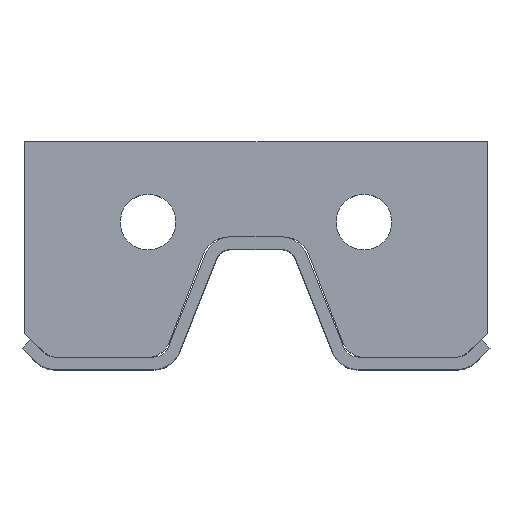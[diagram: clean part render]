
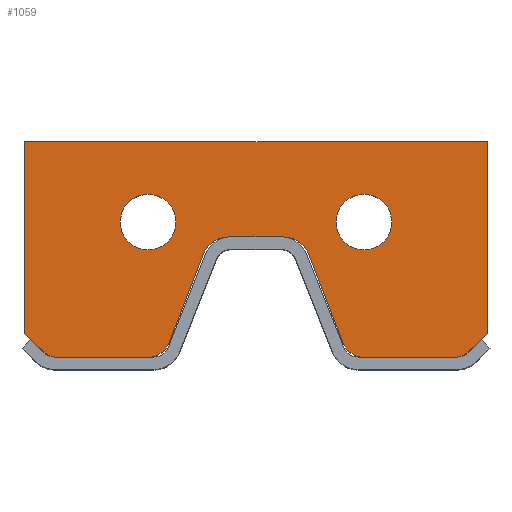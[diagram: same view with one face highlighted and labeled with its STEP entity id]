
A CAD part, top view. The second image highlights one B-rep face of the part: STEP entity #1059.
In plain terms, the highlighted planar face has unit normal (0, 0, 1).
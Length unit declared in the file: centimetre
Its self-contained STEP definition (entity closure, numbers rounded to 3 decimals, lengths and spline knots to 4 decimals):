
#28=FACE_BOUND('',#178,.T.);
#29=FACE_BOUND('',#179,.T.);
#59=PLANE('',#1164);
#113=FACE_OUTER_BOUND('',#177,.T.);
#177=EDGE_LOOP('',(#964,#965,#966,#967,#968,#969,#970,#971,#972,#973,#974,
#975,#976,#977,#978,#979));
#178=EDGE_LOOP('',(#980));
#179=EDGE_LOOP('',(#981));
#220=CIRCLE('',#1139,0.9);
#221=CIRCLE('',#1141,0.9);
#222=CIRCLE('',#1146,0.8);
#223=CIRCLE('',#1149,0.8);
#224=CIRCLE('',#1152,0.8);
#225=CIRCLE('',#1155,0.8);
#226=CIRCLE('',#1158,0.8);
#227=CIRCLE('',#1161,0.8);
#305=LINE('',#1717,#407);
#307=LINE('',#1721,#409);
#309=LINE('',#1725,#411);
#312=LINE('',#1733,#414);
#315=LINE('',#1741,#417);
#318=LINE('',#1749,#420);
#321=LINE('',#1757,#423);
#324=LINE('',#1765,#426);
#327=LINE('',#1773,#429);
#329=LINE('',#1776,#431);
#407=VECTOR('',#1404,0.1);
#409=VECTOR('',#1408,0.1);
#411=VECTOR('',#1412,0.1);
#414=VECTOR('',#1421,0.1);
#417=VECTOR('',#1430,0.1);
#420=VECTOR('',#1439,0.1);
#423=VECTOR('',#1448,0.1);
#426=VECTOR('',#1457,0.1);
#429=VECTOR('',#1466,0.1);
#431=VECTOR('',#1470,0.1);
#514=VERTEX_POINT('',#1706);
#515=VERTEX_POINT('',#1710);
#516=VERTEX_POINT('',#1714);
#517=VERTEX_POINT('',#1716);
#518=VERTEX_POINT('',#1720);
#519=VERTEX_POINT('',#1724);
#520=VERTEX_POINT('',#1728);
#521=VERTEX_POINT('',#1732);
#522=VERTEX_POINT('',#1736);
#523=VERTEX_POINT('',#1740);
#524=VERTEX_POINT('',#1744);
#525=VERTEX_POINT('',#1748);
#526=VERTEX_POINT('',#1752);
#527=VERTEX_POINT('',#1756);
#528=VERTEX_POINT('',#1760);
#529=VERTEX_POINT('',#1764);
#530=VERTEX_POINT('',#1768);
#531=VERTEX_POINT('',#1772);
#646=EDGE_CURVE('',#514,#514,#220,.T.);
#648=EDGE_CURVE('',#515,#515,#221,.T.);
#651=EDGE_CURVE('',#517,#516,#305,.T.);
#653=EDGE_CURVE('',#518,#517,#307,.T.);
#655=EDGE_CURVE('',#519,#518,#309,.T.);
#657=EDGE_CURVE('',#520,#519,#222,.T.);
#659=EDGE_CURVE('',#521,#520,#312,.T.);
#661=EDGE_CURVE('',#522,#521,#223,.T.);
#663=EDGE_CURVE('',#523,#522,#315,.T.);
#665=EDGE_CURVE('',#524,#523,#224,.T.);
#667=EDGE_CURVE('',#525,#524,#318,.T.);
#669=EDGE_CURVE('',#526,#525,#225,.T.);
#671=EDGE_CURVE('',#527,#526,#321,.T.);
#673=EDGE_CURVE('',#528,#527,#226,.T.);
#675=EDGE_CURVE('',#529,#528,#324,.T.);
#677=EDGE_CURVE('',#530,#529,#227,.T.);
#679=EDGE_CURVE('',#531,#530,#327,.T.);
#681=EDGE_CURVE('',#516,#531,#329,.T.);
#964=ORIENTED_EDGE('',*,*,#681,.T.);
#965=ORIENTED_EDGE('',*,*,#679,.T.);
#966=ORIENTED_EDGE('',*,*,#677,.T.);
#967=ORIENTED_EDGE('',*,*,#675,.T.);
#968=ORIENTED_EDGE('',*,*,#673,.T.);
#969=ORIENTED_EDGE('',*,*,#671,.T.);
#970=ORIENTED_EDGE('',*,*,#669,.T.);
#971=ORIENTED_EDGE('',*,*,#667,.T.);
#972=ORIENTED_EDGE('',*,*,#665,.T.);
#973=ORIENTED_EDGE('',*,*,#663,.T.);
#974=ORIENTED_EDGE('',*,*,#661,.T.);
#975=ORIENTED_EDGE('',*,*,#659,.T.);
#976=ORIENTED_EDGE('',*,*,#657,.T.);
#977=ORIENTED_EDGE('',*,*,#655,.T.);
#978=ORIENTED_EDGE('',*,*,#653,.T.);
#979=ORIENTED_EDGE('',*,*,#651,.T.);
#980=ORIENTED_EDGE('',*,*,#648,.T.);
#981=ORIENTED_EDGE('',*,*,#646,.T.);
#1059=ADVANCED_FACE('',(#113,#28,#29),#59,.T.);
#1139=AXIS2_PLACEMENT_3D('',#1707,#1393,#1394);
#1141=AXIS2_PLACEMENT_3D('',#1711,#1398,#1399);
#1146=AXIS2_PLACEMENT_3D('',#1729,#1416,#1417);
#1149=AXIS2_PLACEMENT_3D('',#1737,#1425,#1426);
#1152=AXIS2_PLACEMENT_3D('',#1745,#1434,#1435);
#1155=AXIS2_PLACEMENT_3D('',#1753,#1443,#1444);
#1158=AXIS2_PLACEMENT_3D('',#1761,#1452,#1453);
#1161=AXIS2_PLACEMENT_3D('',#1769,#1461,#1462);
#1164=AXIS2_PLACEMENT_3D('',#1777,#1471,#1472);
#1393=DIRECTION('center_axis',(0.,0.,-1.));
#1394=DIRECTION('ref_axis',(1.,0.,0.));
#1398=DIRECTION('center_axis',(0.,0.,-1.));
#1399=DIRECTION('ref_axis',(1.,0.,0.));
#1404=DIRECTION('',(-1.,0.,0.));
#1408=DIRECTION('',(0.,1.,0.));
#1412=DIRECTION('',(0.707,0.707,0.));
#1416=DIRECTION('center_axis',(0.,0.,1.));
#1417=DIRECTION('ref_axis',(0.,-1.,0.));
#1421=DIRECTION('',(1.,0.,0.));
#1425=DIRECTION('center_axis',(0.,0.,1.));
#1426=DIRECTION('ref_axis',(-0.933,-0.359,0.));
#1430=DIRECTION('',(0.359,-0.933,0.));
#1434=DIRECTION('center_axis',(0.,0.,-1.));
#1435=DIRECTION('ref_axis',(0.,1.,0.));
#1439=DIRECTION('',(1.,0.,0.));
#1443=DIRECTION('center_axis',(0.,0.,-1.));
#1444=DIRECTION('ref_axis',(-0.933,0.359,0.));
#1448=DIRECTION('',(0.359,0.933,0.));
#1452=DIRECTION('center_axis',(0.,0.,1.));
#1453=DIRECTION('ref_axis',(0.,-1.,0.));
#1457=DIRECTION('',(1.,0.,0.));
#1461=DIRECTION('center_axis',(0.,0.,1.));
#1462=DIRECTION('ref_axis',(-0.707,-0.707,0.));
#1466=DIRECTION('',(0.707,-0.707,0.));
#1470=DIRECTION('',(0.,-1.,0.));
#1471=DIRECTION('center_axis',(0.,0.,1.));
#1472=DIRECTION('ref_axis',(1.,0.,0.));
#1706=CARTESIAN_POINT('',(66.6042,160.4396,0.2));
#1707=CARTESIAN_POINT('Origin',(67.5042,160.4396,0.2));
#1710=CARTESIAN_POINT('',(59.6042,160.4396,0.2));
#1711=CARTESIAN_POINT('Origin',(60.5042,160.4396,0.2));
#1714=CARTESIAN_POINT('',(56.5042,163.0396,0.2));
#1716=CARTESIAN_POINT('',(71.5042,163.0396,0.2));
#1717=CARTESIAN_POINT('',(71.5042,163.0396,0.2));
#1720=CARTESIAN_POINT('',(71.5042,156.8396,0.2));
#1721=CARTESIAN_POINT('',(71.5042,156.8396,0.2));
#1724=CARTESIAN_POINT('',(70.9386,156.2739,0.2));
#1725=CARTESIAN_POINT('',(70.9386,156.2739,0.2));
#1728=CARTESIAN_POINT('',(70.3729,156.0396,0.2));
#1729=CARTESIAN_POINT('Origin',(70.3729,156.8396,0.2));
#1732=CARTESIAN_POINT('',(67.5537,156.0396,0.2));
#1733=CARTESIAN_POINT('',(67.5537,156.0396,0.2));
#1736=CARTESIAN_POINT('',(66.807,156.5524,0.2));
#1737=CARTESIAN_POINT('Origin',(67.5537,156.8396,0.2));
#1740=CARTESIAN_POINT('',(65.7015,159.4268,0.2));
#1741=CARTESIAN_POINT('',(65.7015,159.4268,0.2));
#1744=CARTESIAN_POINT('',(64.9548,159.9396,0.2));
#1745=CARTESIAN_POINT('Origin',(64.9548,159.1396,0.2));
#1748=CARTESIAN_POINT('',(63.0537,159.9396,0.2));
#1749=CARTESIAN_POINT('',(63.0537,159.9396,0.2));
#1752=CARTESIAN_POINT('',(62.307,159.4268,0.2));
#1753=CARTESIAN_POINT('Origin',(63.0537,159.1396,0.2));
#1756=CARTESIAN_POINT('',(61.2015,156.5524,0.2));
#1757=CARTESIAN_POINT('',(61.2015,156.5524,0.2));
#1760=CARTESIAN_POINT('',(60.4548,156.0396,0.2));
#1761=CARTESIAN_POINT('Origin',(60.4548,156.8396,0.2));
#1764=CARTESIAN_POINT('',(57.6356,156.0396,0.2));
#1765=CARTESIAN_POINT('',(57.6356,156.0396,0.2));
#1768=CARTESIAN_POINT('',(57.0699,156.2739,0.2));
#1769=CARTESIAN_POINT('Origin',(57.6356,156.8396,0.2));
#1772=CARTESIAN_POINT('',(56.5042,156.8396,0.2));
#1773=CARTESIAN_POINT('',(56.5042,156.8396,0.2));
#1776=CARTESIAN_POINT('',(56.5042,163.0396,0.2));
#1777=CARTESIAN_POINT('Origin',(64.0042,159.8304,0.2));
